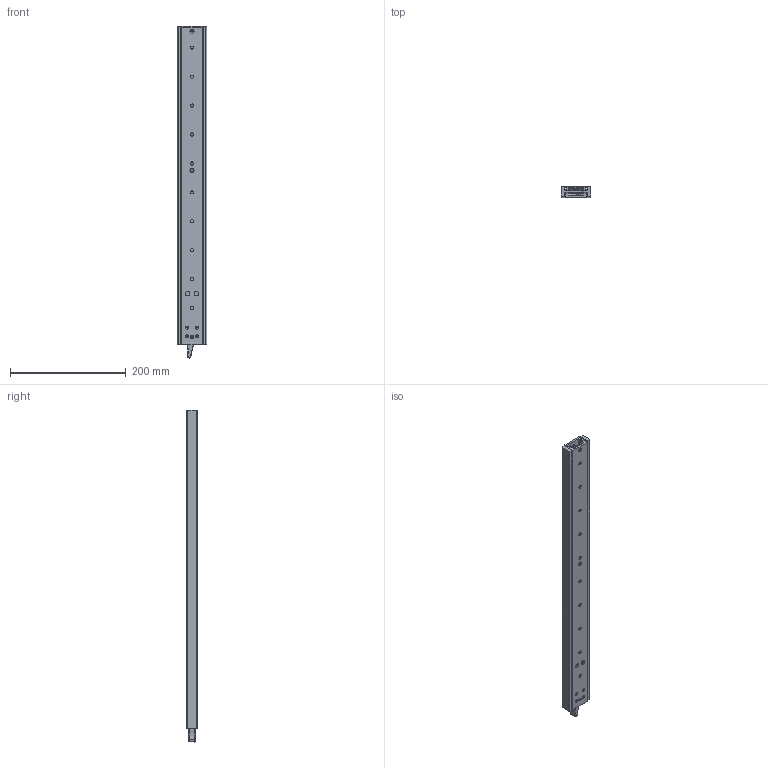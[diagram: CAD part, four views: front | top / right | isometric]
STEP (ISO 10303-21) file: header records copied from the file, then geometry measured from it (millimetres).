
FILE_DESCRIPTION (( 'STEP AP214' ), '1' );
FILE_NAME ('220-550-closed.STEP', '2022-03-25T10:41:03', ( '' ), ( '' ), 'SwSTEP 2.0', 'SolidWorks 2021', '' );
FILE_SCHEMA (( 'AUTOMOTIVE_DESIGN' ));
Length unit declared in the file: millimetre
Products named in the file (5): 61_12280_12_Beam Assembled - Stop Raises .STEP; 220-550-closed; 61_12274.STEP; 61_12280_12_EXPORT-FOR-WEB.STEP; 61_12279_12_EXPORT-WEB.STEP
Assembly tree (4 placements, depth 2):
  220-550-closed
    61_12279_12_EXPORT-WEB.STEP
    61_12280_12_Beam Assembled - Stop Raises .STEP
    61_12280_12_EXPORT-FOR-WEB.STEP
    61_12274.STEP
Bounding box: 50.7 x 19.65 x 573.69 mm (x, y, z)
Volume: 334841.4 mm3; surface area: 195915.7 mm2
Topology: 4 solids, 4 shells, 515 faces, 1338 edges, 815 vertices
Faces by surface type: cylinder 266, plane 105, cone 68, torus 43, bspline 25, sphere 8
Entity records: 18358 total; most frequent: CARTESIAN_POINT 5369, DIRECTION 2792, ORIENTED_EDGE 2652, EDGE_CURVE 1326, AXIS2_PLACEMENT_3D 1095, VERTEX_POINT 815, EDGE_LOOP 611, LINE 602
